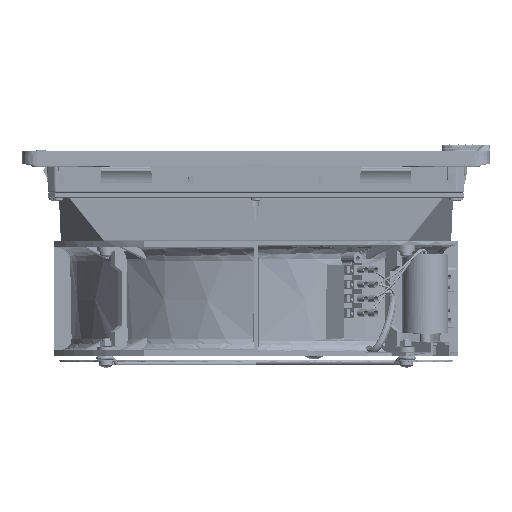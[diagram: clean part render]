
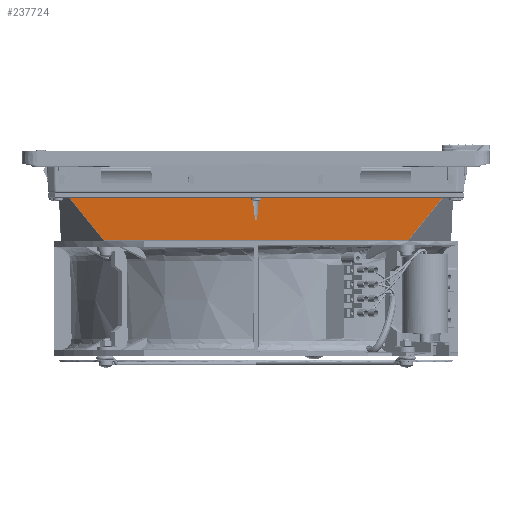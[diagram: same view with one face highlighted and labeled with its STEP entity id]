
A CAD part, left-side view. The second image highlights one B-rep face of the part: STEP entity #237724.
In plain terms, the highlighted planar face has unit normal (-0.999, 0, -0.044).
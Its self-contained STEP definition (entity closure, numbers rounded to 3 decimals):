
#2386 = EDGE_CURVE ( 'NONE', #255793, #256933, #182953, .T. ) ;
#2824 = CARTESIAN_POINT ( 'NONE',  ( -136.404, -121.609, -9.916 ) ) ;
#14228 = CARTESIAN_POINT ( 'NONE',  ( -136.516, -123.646, -7.4 ) ) ;
#18799 = EDGE_CURVE ( 'NONE', #256933, #247434, #221001, .T. ) ;
#21281 = CARTESIAN_POINT ( 'NONE',  ( -135.521, 105.579, -29.722 ) ) ;
#29036 =( BOUNDED_CURVE ( )  B_SPLINE_CURVE ( 3, ( #355563, #198287, #291143, #323304 ),
 .UNSPECIFIED., .F., .F. ) 
 B_SPLINE_CURVE_WITH_KNOTS ( ( 4, 4 ),
 ( 2.55, 3.142 ),
 .UNSPECIFIED. ) 
 CURVE ( )  GEOMETRIC_REPRESENTATION_ITEM ( )  RATIONAL_B_SPLINE_CURVE ( ( 1., 0.971, 0.971, 1. ) ) 
 REPRESENTATION_ITEM ( '' )  );
#29676 = ORIENTED_EDGE ( 'NONE', *, *, #352698, .F. ) ;
#31699 = CARTESIAN_POINT ( 'NONE',  ( -136.145, -0.8, -15.717 ) ) ;
#45193 = CARTESIAN_POINT ( 'NONE',  ( -136.824, -2.229, -0.478 ) ) ;
#46586 = ORIENTED_EDGE ( 'NONE', *, *, #356989, .F. ) ;
#50959 = DIRECTION ( 'NONE',  ( 0., 1., 0. ) ) ;
#53550 = EDGE_LOOP ( 'NONE', ( #46586, #272161, #222159, #110214, #78389, #87101, #29676 ) ) ;
#55961 = CARTESIAN_POINT ( 'NONE',  ( -136.145, 0., -15.717 ) ) ;
#56876 = VECTOR ( 'NONE', #215745, 1000. ) ;
#63311 = CARTESIAN_POINT ( 'NONE',  ( -136.721, -127.38, -2.785 ) ) ;
#67288 = CARTESIAN_POINT ( 'NONE',  ( -135.955, -113.461, -19.983 ) ) ;
#72487 = CARTESIAN_POINT ( 'NONE',  ( -135.521, 105.579, -29.722 ) ) ;
#78389 = ORIENTED_EDGE ( 'NONE', *, *, #133157, .T. ) ;
#79794 = CARTESIAN_POINT ( 'NONE',  ( -136.179, 117.532, -14.95 ) ) ;
#80438 = DIRECTION ( 'NONE',  ( 0.045, 0., -0.999 ) ) ;
#85731 = CARTESIAN_POINT ( 'NONE',  ( -135.843, 111.422, -22.501 ) ) ;
#87101 = ORIENTED_EDGE ( 'NONE', *, *, #275950, .T. ) ;
#97532 = CARTESIAN_POINT ( 'NONE',  ( -135.629, -107.528, -27.315 ) ) ;
#98546 =( BOUNDED_CURVE ( )  B_SPLINE_CURVE ( 3, ( #55961, #31699, #301966, #209140 ),
 .UNSPECIFIED., .F., .F. ) 
 B_SPLINE_CURVE_WITH_KNOTS ( ( 4, 4 ),
 ( 3.142, 3.733 ),
 .UNSPECIFIED. ) 
 CURVE ( )  GEOMETRIC_REPRESENTATION_ITEM ( )  RATIONAL_B_SPLINE_CURVE ( ( 1., 0.971, 0.971, 1. ) ) 
 REPRESENTATION_ITEM ( '' )  );
#104983 = CARTESIAN_POINT ( 'NONE',  ( -136.291, -119.572, -12.433 ) ) ;
#110214 = ORIENTED_EDGE ( 'NONE', *, *, #18799, .T. ) ;
#110667 = CARTESIAN_POINT ( 'NONE',  ( -136.574, 0., -6.084 ) ) ;
#111441 = CARTESIAN_POINT ( 'NONE',  ( -136.824, 0., -0.478 ) ) ;
#113963 = CARTESIAN_POINT ( 'NONE',  ( -136.619, 125.508, -5.092 ) ) ;
#121029 = LINE ( 'NONE', #247978, #56876 ) ;
#123402 = CARTESIAN_POINT ( 'NONE',  ( -136.145, 0., -15.717 ) ) ;
#125794 = CARTESIAN_POINT ( 'NONE',  ( -136.179, -117.535, -14.95 ) ) ;
#127771 = CARTESIAN_POINT ( 'NONE',  ( -135.521, -105.579, -29.722 ) ) ;
#133157 = EDGE_CURVE ( 'NONE', #247434, #179526, #255784, .T. ) ;
#135761 = LINE ( 'NONE', #111441, #380170 ) ;
#142238 = CARTESIAN_POINT ( 'NONE',  ( -136.011, 114.477, -18.725 ) ) ;
#143342 = CARTESIAN_POINT ( 'NONE',  ( -136.824, 129.241, -0.478 ) ) ;
#169122 = PLANE ( 'NONE',  #379014 ) ;
#174428 = CARTESIAN_POINT ( 'NONE',  ( -136.404, 121.605, -9.916 ) ) ;
#179526 = VERTEX_POINT ( 'NONE', #238167 ) ;
#182439 = CARTESIAN_POINT ( 'NONE',  ( -135.521, -105.579, -29.722 ) ) ;
#182953 = B_SPLINE_CURVE_WITH_KNOTS ( 'NONE', 3,
 ( #361966, #384301, #113963, #356020, #174428, #297545, #79794, #142238, #85731, #200743, #208644, #202731, #21281 ),
 .UNSPECIFIED., .F., .F.,
 ( 4, 3, 3, 3, 4 ),
 ( 0., 0.009, 0.019, 0.033, 0.038 ),
 .UNSPECIFIED. ) ;
#195665 = CARTESIAN_POINT ( 'NONE',  ( -136.067, -115.498, -17.466 ) ) ;
#197650 = CARTESIAN_POINT ( 'NONE',  ( -136.824, -129.248, -0.478 ) ) ;
#198287 = CARTESIAN_POINT ( 'NONE',  ( -136.378, 1.565, -10.486 ) ) ;
#200743 = CARTESIAN_POINT ( 'NONE',  ( -135.675, 108.367, -26.277 ) ) ;
#202731 = CARTESIAN_POINT ( 'NONE',  ( -135.572, 106.508, -28.574 ) ) ;
#203363 = CARTESIAN_POINT ( 'NONE',  ( -136.824, 2.229, -0.478 ) ) ;
#208644 = CARTESIAN_POINT ( 'NONE',  ( -135.624, 107.438, -27.425 ) ) ;
#209140 = CARTESIAN_POINT ( 'NONE',  ( -136.824, -2.229, -0.478 ) ) ;
#215745 = DIRECTION ( 'NONE',  ( 0., 1., 0. ) ) ;
#220485 = CARTESIAN_POINT ( 'NONE',  ( -135.843, -111.425, -22.5 ) ) ;
#221001 = LINE ( 'NONE', #315735, #227077 ) ;
#222159 = ORIENTED_EDGE ( 'NONE', *, *, #2386, .T. ) ;
#227077 = VECTOR ( 'NONE', #245303, 1000. ) ;
#237664 = VERTEX_POINT ( 'NONE', #203363 ) ;
#237724 = ADVANCED_FACE ( 'NONE', ( #259938 ), #169122, .F. ) ;
#238167 = CARTESIAN_POINT ( 'NONE',  ( -136.824, -129.248, -0.478 ) ) ;
#245303 = DIRECTION ( 'NONE',  ( 0., -1., 0. ) ) ;
#247434 = VERTEX_POINT ( 'NONE', #182439 ) ;
#247978 = CARTESIAN_POINT ( 'NONE',  ( -136.824, 0., -0.478 ) ) ;
#255784 = B_SPLINE_CURVE_WITH_KNOTS ( 'NONE', 3,
 ( #127771, #97532, #279090, #220485, #67288, #195665, #125794, #104983, #2824, #14228, #309304, #63311, #197650 ),
 .UNSPECIFIED., .F., .F.,
 ( 4, 3, 3, 3, 4 ),
 ( 0., 0.009, 0.019, 0.029, 0.038 ),
 .UNSPECIFIED. ) ;
#255793 = VERTEX_POINT ( 'NONE', #143342 ) ;
#256933 = VERTEX_POINT ( 'NONE', #72487 ) ;
#259938 = FACE_OUTER_BOUND ( 'NONE', #53550, .T. ) ;
#272161 = ORIENTED_EDGE ( 'NONE', *, *, #393954, .T. ) ;
#275950 = EDGE_CURVE ( 'NONE', #179526, #329670, #121029, .T. ) ;
#279090 = CARTESIAN_POINT ( 'NONE',  ( -135.736, -109.476, -24.907 ) ) ;
#291143 = CARTESIAN_POINT ( 'NONE',  ( -136.145, 0.8, -15.717 ) ) ;
#297545 = CARTESIAN_POINT ( 'NONE',  ( -136.291, 119.568, -12.433 ) ) ;
#301966 = CARTESIAN_POINT ( 'NONE',  ( -136.378, -1.565, -10.486 ) ) ;
#309304 = CARTESIAN_POINT ( 'NONE',  ( -136.618, -125.513, -5.092 ) ) ;
#315735 = CARTESIAN_POINT ( 'NONE',  ( -135.521, 0., -29.722 ) ) ;
#323304 = CARTESIAN_POINT ( 'NONE',  ( -136.145, 0., -15.717 ) ) ;
#329670 = VERTEX_POINT ( 'NONE', #45193 ) ;
#352698 = EDGE_CURVE ( 'NONE', #382434, #329670, #98546, .T. ) ;
#355563 = CARTESIAN_POINT ( 'NONE',  ( -136.824, 2.229, -0.478 ) ) ;
#356020 = CARTESIAN_POINT ( 'NONE',  ( -136.516, 123.641, -7.399 ) ) ;
#356648 = DIRECTION ( 'NONE',  ( 0.999, 0., 0.045 ) ) ;
#356989 = EDGE_CURVE ( 'NONE', #237664, #382434, #29036, .T. ) ;
#361966 = CARTESIAN_POINT ( 'NONE',  ( -136.824, 129.241, -0.478 ) ) ;
#379014 = AXIS2_PLACEMENT_3D ( 'NONE', #110667, #356648, #80438 ) ;
#380170 = VECTOR ( 'NONE', #50959, 1000. ) ;
#382434 = VERTEX_POINT ( 'NONE', #123402 ) ;
#384301 = CARTESIAN_POINT ( 'NONE',  ( -136.721, 127.375, -2.785 ) ) ;
#393954 = EDGE_CURVE ( 'NONE', #237664, #255793, #135761, .T. ) ;
